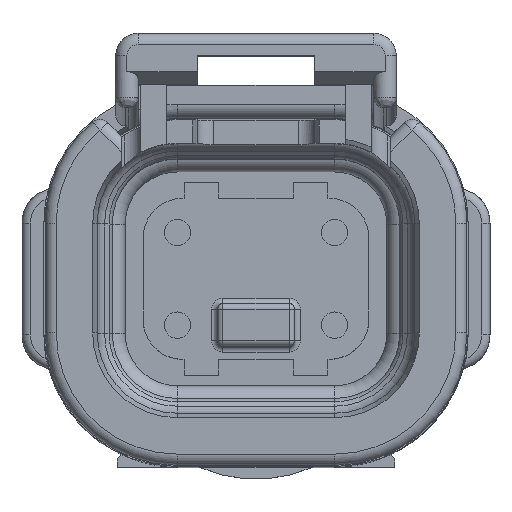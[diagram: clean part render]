
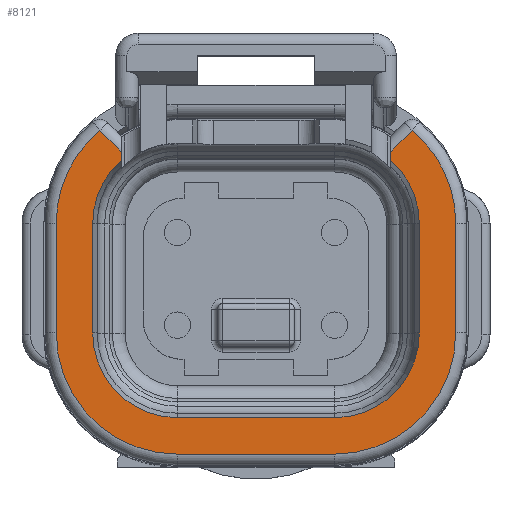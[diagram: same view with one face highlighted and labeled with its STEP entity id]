
A CAD part, top view. The second image highlights one B-rep face of the part: STEP entity #8121.
In plain terms, the highlighted planar face has unit normal (0, 0, 1).
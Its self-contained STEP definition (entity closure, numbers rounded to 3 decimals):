
#1423=CARTESIAN_POINT('',(3.556,2.477,1.524));
#1424=DIRECTION('',(0.,0.,1.));
#1425=DIRECTION('',(1.,0.,0.));
#1426=AXIS2_PLACEMENT_3D('',#1423,#1424,#1425);
#1428=DIRECTION('',(0.,1.,0.));
#1429=VECTOR('',#1428,4.953);
#1430=CARTESIAN_POINT('',(9.042,-2.477,1.524));
#1431=LINE('',#1430,#1429);
#1432=CARTESIAN_POINT('',(3.556,-2.477,1.524));
#1433=DIRECTION('',(0.,0.,1.));
#1434=DIRECTION('',(0.,-1.,0.));
#1435=AXIS2_PLACEMENT_3D('',#1432,#1433,#1434);
#1437=DIRECTION('',(1.,0.,0.));
#1438=VECTOR('',#1437,7.112);
#1439=CARTESIAN_POINT('',(-3.556,-7.963,1.524));
#1440=LINE('',#1439,#1438);
#1441=CARTESIAN_POINT('',(-3.556,-2.477,1.524));
#1442=DIRECTION('',(0.,0.,1.));
#1443=DIRECTION('',(-1.,0.,0.));
#1444=AXIS2_PLACEMENT_3D('',#1441,#1442,#1443);
#1446=DIRECTION('',(0.,-1.,0.));
#1447=VECTOR('',#1446,4.953);
#1448=CARTESIAN_POINT('',(-9.042,2.477,1.524));
#1449=LINE('',#1448,#1447);
#1450=CARTESIAN_POINT('',(-3.556,2.477,1.524));
#1451=DIRECTION('',(0.,0.,1.));
#1452=DIRECTION('',(-0.641,0.768,0.));
#1453=AXIS2_PLACEMENT_3D('',#1450,#1451,#1452);
#1455=DIRECTION('',(-0.707,0.707,0.));
#1456=VECTOR('',#1455,1.381);
#1457=CARTESIAN_POINT('',(-6.096,5.711,1.524));
#1458=LINE('',#1457,#1456);
#1459=DIRECTION('',(0.,1.,0.));
#1460=VECTOR('',#1459,0.36);
#1461=CARTESIAN_POINT('',(-6.096,5.352,1.524));
#1462=LINE('',#1461,#1460);
#1463=CARTESIAN_POINT('',(-3.556,2.477,1.524));
#1464=DIRECTION('',(0.,0.,-1.));
#1465=DIRECTION('',(-1.,0.,0.));
#1466=AXIS2_PLACEMENT_3D('',#1463,#1464,#1465);
#1468=DIRECTION('',(0.,1.,0.));
#1469=VECTOR('',#1468,4.953);
#1470=CARTESIAN_POINT('',(-7.392,-2.476,1.524));
#1471=LINE('',#1470,#1469);
#1472=CARTESIAN_POINT('',(-3.556,-2.477,1.524));
#1473=DIRECTION('',(0.,0.,-1.));
#1474=DIRECTION('',(0.,-1.,0.));
#1475=AXIS2_PLACEMENT_3D('',#1472,#1473,#1474);
#1477=DIRECTION('',(-1.,0.,0.));
#1478=VECTOR('',#1477,7.112);
#1479=CARTESIAN_POINT('',(3.556,-6.313,1.524));
#1480=LINE('',#1479,#1478);
#1481=CARTESIAN_POINT('',(3.556,-2.477,1.524));
#1482=DIRECTION('',(0.,0.,-1.));
#1483=DIRECTION('',(1.,0.,0.));
#1484=AXIS2_PLACEMENT_3D('',#1481,#1482,#1483);
#1486=DIRECTION('',(0.,-1.,0.));
#1487=VECTOR('',#1486,4.953);
#1488=CARTESIAN_POINT('',(7.392,2.476,1.524));
#1489=LINE('',#1488,#1487);
#1490=CARTESIAN_POINT('',(3.556,2.477,1.524));
#1491=DIRECTION('',(0.,0.,-1.));
#1492=DIRECTION('',(0.662,0.749,0.));
#1493=AXIS2_PLACEMENT_3D('',#1490,#1491,#1492);
#1495=DIRECTION('',(0.,-1.,0.));
#1496=VECTOR('',#1495,0.36);
#1497=CARTESIAN_POINT('',(6.096,5.711,1.524));
#1498=LINE('',#1497,#1496);
#1499=DIRECTION('',(-0.707,-0.707,0.));
#1500=VECTOR('',#1499,1.381);
#1501=CARTESIAN_POINT('',(7.072,6.688,1.524));
#1502=LINE('',#1501,#1500);
#1611=CARTESIAN_POINT('',(-6.096,5.711,1.524));
#1617=CARTESIAN_POINT('',(-6.096,5.352,1.524));
#2695=CARTESIAN_POINT('',(6.096,5.711,1.524));
#2711=CARTESIAN_POINT('',(6.096,5.352,1.524));
#6352=CARTESIAN_POINT('',(9.042,2.477,1.524));
#6353=CARTESIAN_POINT('',(7.072,6.688,1.524));
#6354=VERTEX_POINT('',#6352);
#6355=VERTEX_POINT('',#6353);
#6356=CARTESIAN_POINT('',(9.042,-2.477,1.524));
#6357=VERTEX_POINT('',#6356);
#6360=CARTESIAN_POINT('',(3.556,-7.963,1.524));
#6361=VERTEX_POINT('',#6360);
#6364=CARTESIAN_POINT('',(-3.556,-7.963,1.524));
#6365=VERTEX_POINT('',#6364);
#6368=CARTESIAN_POINT('',(-9.042,-2.477,1.524));
#6369=VERTEX_POINT('',#6368);
#6372=CARTESIAN_POINT('',(-9.042,2.477,1.524));
#6373=VERTEX_POINT('',#6372);
#6376=CARTESIAN_POINT('',(-7.072,6.688,1.524));
#6377=VERTEX_POINT('',#6376);
#6504=VERTEX_POINT('',#2695);
#6509=VERTEX_POINT('',#1611);
#6528=VERTEX_POINT('',#1617);
#6532=CARTESIAN_POINT('',(-7.392,2.477,1.524));
#6533=VERTEX_POINT('',#6532);
#6534=CARTESIAN_POINT('',(-7.392,-2.476,1.524));
#6535=VERTEX_POINT('',#6534);
#6538=CARTESIAN_POINT('',(-3.556,-6.313,1.524));
#6539=VERTEX_POINT('',#6538);
#6542=CARTESIAN_POINT('',(3.556,-6.313,1.524));
#6543=VERTEX_POINT('',#6542);
#6546=CARTESIAN_POINT('',(7.392,-2.477,1.524));
#6547=VERTEX_POINT('',#6546);
#6550=CARTESIAN_POINT('',(7.392,2.476,1.524));
#6551=VERTEX_POINT('',#6550);
#6555=VERTEX_POINT('',#2711);
#8080=CARTESIAN_POINT('',(0.,0.,1.524));
#8081=DIRECTION('',(0.,0.,1.));
#8082=DIRECTION('',(1.,0.,0.));
#8083=AXIS2_PLACEMENT_3D('',#8080,#8081,#8082);
#8084=PLANE('',#8083);
#8085=ORIENTED_EDGE('',*,*,#8058,.F.);
#8086=ORIENTED_EDGE('',*,*,#8070,.F.);
#8088=ORIENTED_EDGE('',*,*,#8087,.F.);
#8090=ORIENTED_EDGE('',*,*,#8089,.F.);
#8092=ORIENTED_EDGE('',*,*,#8091,.F.);
#8094=ORIENTED_EDGE('',*,*,#8093,.F.);
#8096=ORIENTED_EDGE('',*,*,#8095,.F.);
#8098=ORIENTED_EDGE('',*,*,#8097,.F.);
#8100=ORIENTED_EDGE('',*,*,#8099,.F.);
#8102=ORIENTED_EDGE('',*,*,#8101,.F.);
#8104=ORIENTED_EDGE('',*,*,#8103,.F.);
#8106=ORIENTED_EDGE('',*,*,#8105,.F.);
#8108=ORIENTED_EDGE('',*,*,#8107,.F.);
#8110=ORIENTED_EDGE('',*,*,#8109,.F.);
#8112=ORIENTED_EDGE('',*,*,#8111,.F.);
#8114=ORIENTED_EDGE('',*,*,#8113,.F.);
#8116=ORIENTED_EDGE('',*,*,#8115,.F.);
#8118=ORIENTED_EDGE('',*,*,#8117,.F.);
#8119=EDGE_LOOP('',(#8085,#8086,#8088,#8090,#8092,#8094,#8096,#8098,#8100,#8102,
#8104,#8106,#8108,#8110,#8112,#8114,#8116,#8118));
#8120=FACE_OUTER_BOUND('',#8119,.F.);
#8121=ADVANCED_FACE('',(#8120),#8084,.T.);
#1427=CIRCLE('',#1426,5.486);
#1436=CIRCLE('',#1435,5.486);
#1445=CIRCLE('',#1444,5.486);
#1454=CIRCLE('',#1453,5.486);
#1467=CIRCLE('',#1466,3.836);
#1476=CIRCLE('',#1475,3.836);
#1485=CIRCLE('',#1484,3.836);
#1494=CIRCLE('',#1493,3.836);
#8058=EDGE_CURVE('',#6354,#6355,#1427,.T.);
#8070=EDGE_CURVE('',#6357,#6354,#1431,.T.);
#8087=EDGE_CURVE('',#6361,#6357,#1436,.T.);
#8089=EDGE_CURVE('',#6365,#6361,#1440,.T.);
#8091=EDGE_CURVE('',#6369,#6365,#1445,.T.);
#8093=EDGE_CURVE('',#6373,#6369,#1449,.T.);
#8095=EDGE_CURVE('',#6377,#6373,#1454,.T.);
#8097=EDGE_CURVE('',#6509,#6377,#1458,.T.);
#8099=EDGE_CURVE('',#6528,#6509,#1462,.T.);
#8101=EDGE_CURVE('',#6533,#6528,#1467,.T.);
#8103=EDGE_CURVE('',#6535,#6533,#1471,.T.);
#8105=EDGE_CURVE('',#6539,#6535,#1476,.T.);
#8107=EDGE_CURVE('',#6543,#6539,#1480,.T.);
#8109=EDGE_CURVE('',#6547,#6543,#1485,.T.);
#8111=EDGE_CURVE('',#6551,#6547,#1489,.T.);
#8113=EDGE_CURVE('',#6555,#6551,#1494,.T.);
#8115=EDGE_CURVE('',#6504,#6555,#1498,.T.);
#8117=EDGE_CURVE('',#6355,#6504,#1502,.T.);
